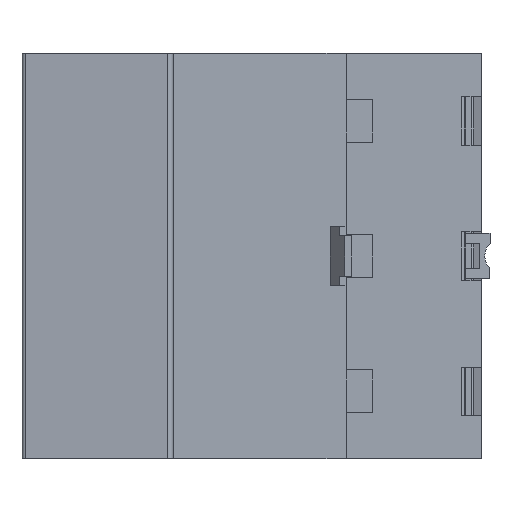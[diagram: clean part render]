
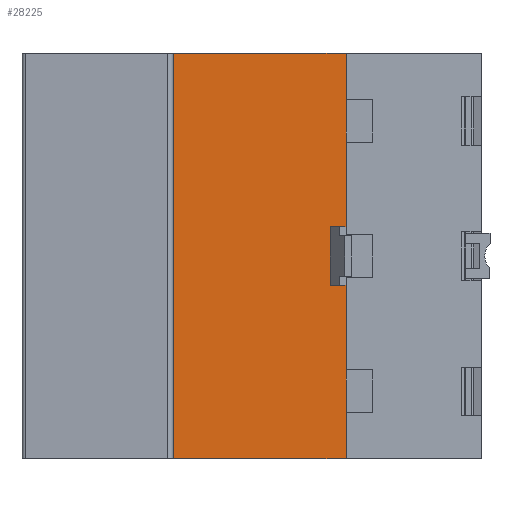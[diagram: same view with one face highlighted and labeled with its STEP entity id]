
A CAD part, front view. The second image highlights one B-rep face of the part: STEP entity #28225.
In plain terms, the highlighted planar face has unit normal (0, -1, 0).
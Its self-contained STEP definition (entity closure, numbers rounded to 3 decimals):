
#5197 = CARTESIAN_POINT ( 'NONE',  ( -23.829, -32.772, 13.25 ) ) ;
#5624 = CARTESIAN_POINT ( 'NONE',  ( -23.829, -32.772, -66.25 ) ) ;
#6881 = CARTESIAN_POINT ( 'NONE',  ( 12.171, -32.772, -66.25 ) ) ;
#12631 = LINE ( 'NONE', #12632, #47667 ) ;
#12632 = CARTESIAN_POINT ( 'NONE',  ( -23.829, -32.772, -66.25 ) ) ;
#12633 = DIRECTION ( 'NONE',  ( -1., 0., 0. ) ) ;
#16968 = EDGE_CURVE ( 'NONE', #41390, #39045, #37193, .T. ) ;
#16969 = EDGE_CURVE ( 'NONE', #41390, #26706, #37227, .T. ) ;
#18555 = ORIENTED_EDGE ( 'NONE', *, *, #28254, .F. ) ;
#18556 = ORIENTED_EDGE ( 'NONE', *, *, #28569, .F. ) ;
#18557 = ORIENTED_EDGE ( 'NONE', *, *, #16968, .F. ) ;
#18558 = ORIENTED_EDGE ( 'NONE', *, *, #16969, .T. ) ;
#22848 = LINE ( 'NONE', #22849, #46986 ) ;
#22849 = CARTESIAN_POINT ( 'NONE',  ( -23.829, -32.772, 13.25 ) ) ;
#22850 = DIRECTION ( 'NONE',  ( 0., 0., 1. ) ) ;
#26706 = VERTEX_POINT ( 'NONE', #5197 ) ;
#28225 = ADVANCED_FACE ( 'NONE', ( #45716 ), #45717, .F. ) ;
#28254 = EDGE_CURVE ( 'NONE', #49867, #26706, #22848, .T. ) ;
#28569 = EDGE_CURVE ( 'NONE', #39045, #49867, #12631, .T. ) ;
#37193 = LINE ( 'NONE', #37225, #39850 ) ;
#37225 = CARTESIAN_POINT ( 'NONE',  ( 12.171, -32.772, 13.25 ) ) ;
#37226 = DIRECTION ( 'NONE',  ( 0., 0., -1. ) ) ;
#37227 = LINE ( 'NONE', #37229, #39417 ) ;
#37229 = CARTESIAN_POINT ( 'NONE',  ( 38.671, -32.772, 13.25 ) ) ;
#37230 = DIRECTION ( 'NONE',  ( -1., 0., 0. ) ) ;
#39045 = VERTEX_POINT ( 'NONE', #6881 ) ;
#39417 = VECTOR ( 'NONE', #37230, 1000. ) ;
#39850 = VECTOR ( 'NONE', #37226, 1000. ) ;
#41390 = VERTEX_POINT ( 'NONE', #51255 ) ;
#44328 = EDGE_LOOP ( 'NONE', ( #18555, #18556, #18557, #18558 ) ) ;
#45220 = AXIS2_PLACEMENT_3D ( 'NONE', #45727, #45728, #45729 ) ;
#45716 = FACE_OUTER_BOUND ( 'NONE', #44328, .T. ) ;
#45717 = PLANE ( 'NONE',  #45220 ) ;
#45727 = CARTESIAN_POINT ( 'NONE',  ( -23.829, -32.772, 13.25 ) ) ;
#45728 = DIRECTION ( 'NONE',  ( 0., 1., 0. ) ) ;
#45729 = DIRECTION ( 'NONE',  ( -1., 0., 0. ) ) ;
#46986 = VECTOR ( 'NONE', #22850, 1000. ) ;
#47667 = VECTOR ( 'NONE', #12633, 1000. ) ;
#49867 = VERTEX_POINT ( 'NONE', #5624 ) ;
#51255 = CARTESIAN_POINT ( 'NONE',  ( 12.171, -32.772, 13.25 ) ) ;
